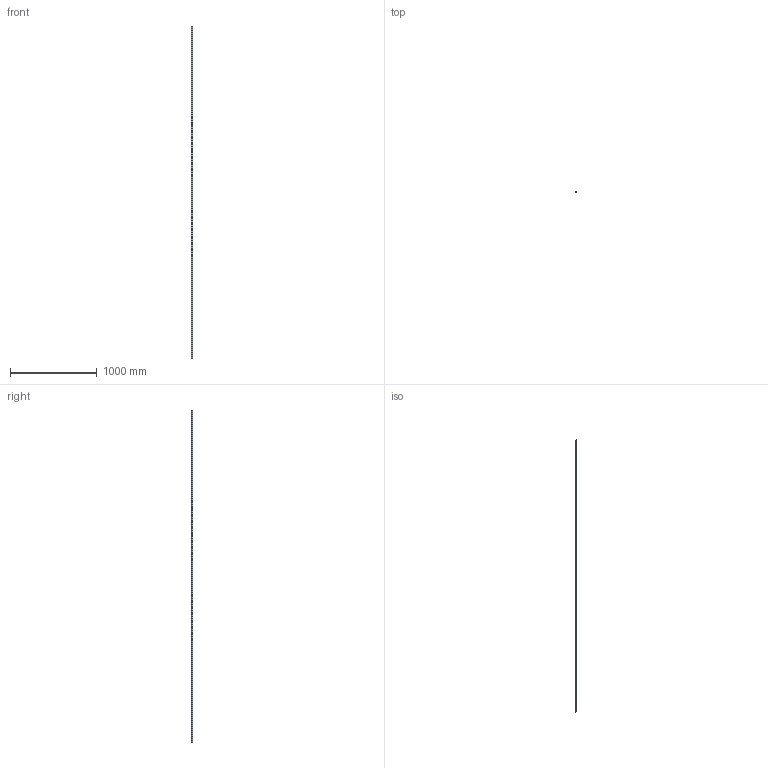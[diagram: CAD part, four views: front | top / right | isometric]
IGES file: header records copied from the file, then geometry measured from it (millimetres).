
Start section: SolidWorks IGES file using analytic representation for surfaces
Global section: file name: C:\Users\IanO\Desktop\L1016_v2\L1016.BL15_v2\L1016.BL15_v2_20190611_IGES\L1016.BL15-3820.igs; native system: SolidWorks 2017; preprocessor: SolidWorks 2017; author: IanO; date: 190612.123801; units: millimetre
Bounding box: 15 x 13 x 3820 mm (x, y, z)
Surface area: 233181.1 mm2 (no closed solid volume)
Topology: 0 solids, 0 shells, 346 faces, 9368 edges, 9368 vertices
Faces by surface type: revolution 260, bspline 86
